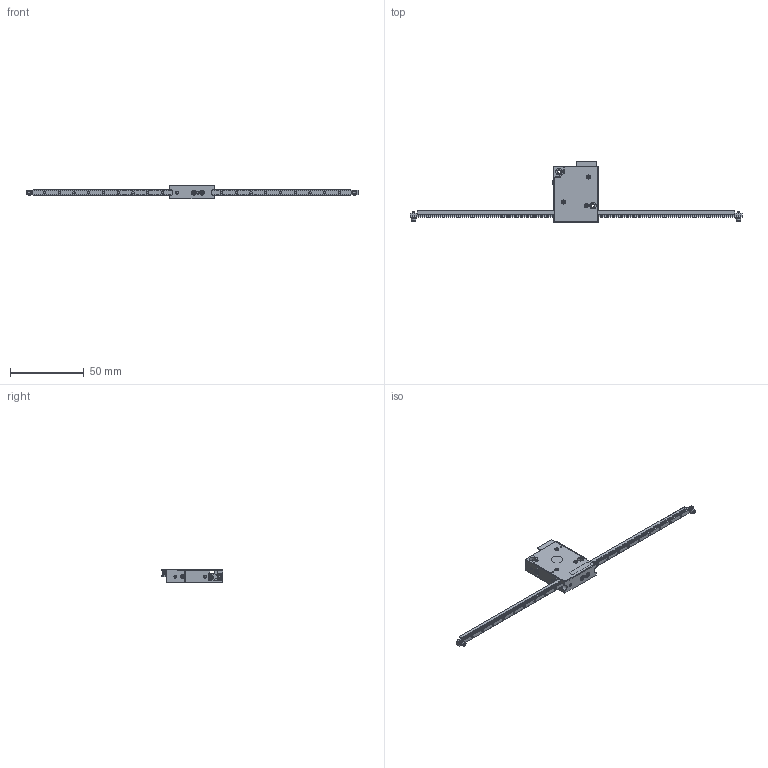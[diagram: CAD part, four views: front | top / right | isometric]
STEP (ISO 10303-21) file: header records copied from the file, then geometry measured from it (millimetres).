
FILE_DESCRIPTION(/* description */ (''),/* implementation_level */ '2;1');
FILE_NAME(/* name */ 'XLA_3_225_assy_F2.stp',/* time_stamp */ '2024-01-30T16:29:45+01:00',/* author */ (''),/* organization */ (''),/* preprocessor_version */ 'ST-DEVELOPER v16',/* originating_system */ 'SIEMENS PLM Software NX 10.0',/* authorisation */ '');
FILE_SCHEMA (('AUTOMOTIVE_DESIGN { 1 0 10303 214 3 1 1 1 }'));
Products named in the file (22): 525591452_stp; 525591252_stp; 527451497_Gold; 527451297_Gold; O-ring_Di1_Do3; rondsel_DIN433_M1_6; XLA_3_damping_foil_215_B; Bout_M1_6_L5; linear_encoder_215; ceramic_ruler_W3_T2_L215; rail-0225_step; Part1_carriage; Part2_carriage; CSPPN1P-ST3W-M2-1_5_214_step; XLA_3_cover_A; CSPPN1P-ST3W-M2-3_214_step; PACK-SMIB1.6-3_stp; XLA_3_body_E2; XLA_3_top_PCB_B; XLA_3_tractielat_225_B; carriage; XLA_3_225_assy_F2
Assembly tree (30 placements, depth 3):
  XLA_3_225_assy_F2
    carriage
      Part2_carriage  x2
      Part1_carriage
    XLA_3_body_E2
    XLA_3_tractielat_225_B
      rail-0225_step
      ceramic_ruler_W3_T2_L215
      linear_encoder_215
      Bout_M1_6_L5  x2
      XLA_3_damping_foil_215_B
      rondsel_DIN433_M1_6  x4
      O-ring_Di1_Do3  x2
    XLA_3_top_PCB_B
      527451297_Gold
      527451497_Gold
      525591252_stp
      525591452_stp
    PACK-SMIB1.6-3_stp  x3
    CSPPN1P-ST3W-M2-3_214_step  x2
    XLA_3_cover_A
    CSPPN1P-ST3W-M2-1_5_214_step
Bounding box: 225 x 42 x 9.45 mm (x, y, z)
Volume: 12449.8 mm3; surface area: 18290.4 mm2
Topology: 28 solids, 28 shells, 2897 faces, 8429 edges, 5514 vertices
Faces by surface type: plane 2340, cylinder 429, cone 52, sphere 36, torus 31, bspline 9
Full cylindrical faces by diameter (mm): 1 x2, 1.25 x3, 1.6 x8, 1.7 x4, 1.8 x3, 2.135 x2, 2.2 x2, 2.4 x3, 2.8 x3, 3 x2, 3.4 x2, 3.5 x4, 4.4 x4, 8 x1
Entity records: 94093 total; most frequent: CARTESIAN_POINT 20001, ORIENTED_EDGE 15826, DIRECTION 14325, EDGE_CURVE 7913, LINE 6947, VECTOR 6947, VERTEX_POINT 5226, AXIS2_PLACEMENT_3D 3689
